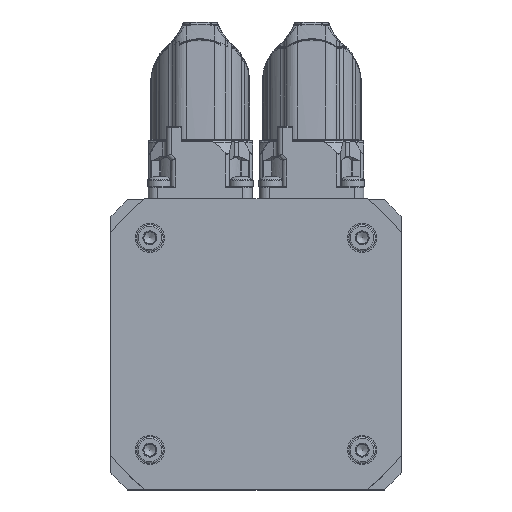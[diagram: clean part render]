
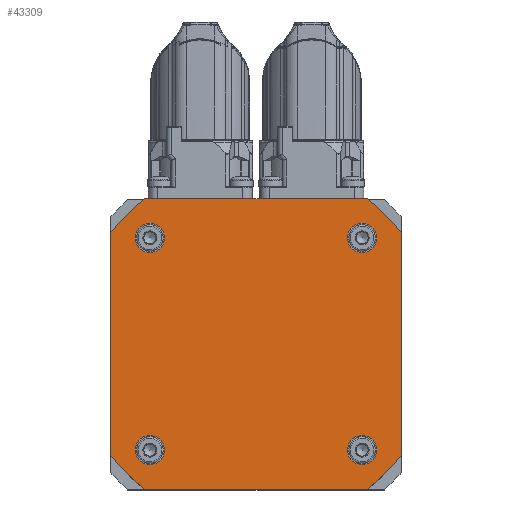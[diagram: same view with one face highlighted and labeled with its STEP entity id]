
A CAD part, top view. The second image highlights one B-rep face of the part: STEP entity #43309.
In plain terms, the highlighted planar face has unit normal (0, 0, 1).
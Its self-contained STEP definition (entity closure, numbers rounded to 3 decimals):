
#5439=LINE('',#64363,#7476);
#5443=LINE('',#64375,#7480);
#5447=LINE('',#64387,#7484);
#5451=LINE('',#64397,#7488);
#7476=VECTOR('',#51625,45.993);
#7480=VECTOR('',#51637,45.993);
#7484=VECTOR('',#51649,45.993);
#7488=VECTOR('',#51661,45.993);
#9486=PLANE('',#46102);
#10215=FACE_BOUND('',#13399,.T.);
#10216=FACE_BOUND('',#13400,.T.);
#10217=FACE_BOUND('',#13401,.T.);
#10218=FACE_BOUND('',#13402,.T.);
#10219=FACE_BOUND('',#13403,.T.);
#13399=EDGE_LOOP('',(#29850));
#13400=EDGE_LOOP('',(#29851));
#13401=EDGE_LOOP('',(#29852));
#13402=EDGE_LOOP('',(#29853));
#13403=EDGE_LOOP('',(#29854,#29855,#29856,#29857,#29858,#29859,#29860,#29861));
#16438=CIRCLE('',#46071,3.);
#16440=CIRCLE('',#46075,3.);
#16442=CIRCLE('',#46079,3.);
#16444=CIRCLE('',#46083,3.);
#16447=CIRCLE('',#46088,37.8);
#16449=CIRCLE('',#46092,37.8);
#16451=CIRCLE('',#46096,37.8);
#16453=CIRCLE('',#46100,37.8);
#19082=VERTEX_POINT('',#64327);
#19084=VERTEX_POINT('',#64333);
#19086=VERTEX_POINT('',#64339);
#19088=VERTEX_POINT('',#64345);
#19092=VERTEX_POINT('',#64354);
#19093=VERTEX_POINT('',#64356);
#19095=VERTEX_POINT('',#64362);
#19097=VERTEX_POINT('',#64368);
#19099=VERTEX_POINT('',#64374);
#19101=VERTEX_POINT('',#64380);
#19103=VERTEX_POINT('',#64386);
#19105=VERTEX_POINT('',#64392);
#23258=EDGE_CURVE('',#19082,#19082,#16438,.T.);
#23260=EDGE_CURVE('',#19084,#19084,#16440,.T.);
#23262=EDGE_CURVE('',#19086,#19086,#16442,.T.);
#23264=EDGE_CURVE('',#19088,#19088,#16444,.T.);
#23268=EDGE_CURVE('',#19093,#19092,#16447,.T.);
#23271=EDGE_CURVE('',#19095,#19093,#5439,.T.);
#23274=EDGE_CURVE('',#19097,#19095,#16449,.T.);
#23277=EDGE_CURVE('',#19099,#19097,#5443,.T.);
#23280=EDGE_CURVE('',#19101,#19099,#16451,.T.);
#23283=EDGE_CURVE('',#19103,#19101,#5447,.T.);
#23286=EDGE_CURVE('',#19105,#19103,#16453,.T.);
#23289=EDGE_CURVE('',#19092,#19105,#5451,.T.);
#29850=ORIENTED_EDGE('',*,*,#23258,.T.);
#29851=ORIENTED_EDGE('',*,*,#23260,.T.);
#29852=ORIENTED_EDGE('',*,*,#23262,.T.);
#29853=ORIENTED_EDGE('',*,*,#23264,.T.);
#29854=ORIENTED_EDGE('',*,*,#23289,.T.);
#29855=ORIENTED_EDGE('',*,*,#23286,.T.);
#29856=ORIENTED_EDGE('',*,*,#23283,.T.);
#29857=ORIENTED_EDGE('',*,*,#23280,.T.);
#29858=ORIENTED_EDGE('',*,*,#23277,.T.);
#29859=ORIENTED_EDGE('',*,*,#23274,.T.);
#29860=ORIENTED_EDGE('',*,*,#23271,.T.);
#29861=ORIENTED_EDGE('',*,*,#23268,.T.);
#43309=ADVANCED_FACE('',(#10215,#10216,#10217,#10218,#10219),#9486,.T.);
#46071=AXIS2_PLACEMENT_3D('',#64328,#51584,#51585);
#46075=AXIS2_PLACEMENT_3D('',#64334,#51592,#51593);
#46079=AXIS2_PLACEMENT_3D('',#64340,#51600,#51601);
#46083=AXIS2_PLACEMENT_3D('',#64346,#51608,#51609);
#46088=AXIS2_PLACEMENT_3D('',#64357,#51619,#51620);
#46092=AXIS2_PLACEMENT_3D('',#64369,#51631,#51632);
#46096=AXIS2_PLACEMENT_3D('',#64381,#51643,#51644);
#46100=AXIS2_PLACEMENT_3D('',#64393,#51655,#51656);
#46102=AXIS2_PLACEMENT_3D('',#64398,#51662,#51663);
#51584=DIRECTION('center_axis',(0.,0.,-1.));
#51585=DIRECTION('ref_axis',(0.,-1.,0.));
#51592=DIRECTION('center_axis',(0.,0.,-1.));
#51593=DIRECTION('ref_axis',(-1.,0.,0.));
#51600=DIRECTION('center_axis',(0.,0.,-1.));
#51601=DIRECTION('ref_axis',(0.,1.,0.));
#51608=DIRECTION('center_axis',(0.,0.,-1.));
#51609=DIRECTION('ref_axis',(1.,0.,0.));
#51619=DIRECTION('center_axis',(0.,0.,1.));
#51620=DIRECTION('ref_axis',(0.794,0.608,0.));
#51625=DIRECTION('',(0.,1.,0.));
#51631=DIRECTION('center_axis',(0.,0.,1.));
#51632=DIRECTION('ref_axis',(0.608,-0.794,0.));
#51637=DIRECTION('',(1.,0.,0.));
#51643=DIRECTION('center_axis',(0.,0.,1.));
#51644=DIRECTION('ref_axis',(-0.794,-0.608,0.));
#51649=DIRECTION('',(0.,-1.,0.));
#51655=DIRECTION('center_axis',(0.,0.,1.));
#51656=DIRECTION('ref_axis',(-0.608,0.794,0.));
#51661=DIRECTION('',(-1.,0.,0.));
#51662=DIRECTION('center_axis',(0.,0.,1.));
#51663=DIRECTION('ref_axis',(1.,0.,0.));
#64327=CARTESIAN_POINT('',(21.92,-24.92,104.));
#64328=CARTESIAN_POINT('Origin',(21.92,-21.92,104.));
#64333=CARTESIAN_POINT('',(-24.92,-21.92,104.));
#64334=CARTESIAN_POINT('Origin',(-21.92,-21.92,104.));
#64339=CARTESIAN_POINT('',(-21.92,24.92,104.));
#64340=CARTESIAN_POINT('Origin',(-21.92,21.92,104.));
#64345=CARTESIAN_POINT('',(24.92,21.92,104.));
#64346=CARTESIAN_POINT('Origin',(21.92,21.92,104.));
#64354=CARTESIAN_POINT('',(22.997,30.,104.));
#64356=CARTESIAN_POINT('',(30.,22.997,104.));
#64357=CARTESIAN_POINT('Origin',(0.,0.,104.));
#64362=CARTESIAN_POINT('',(30.,-22.997,104.));
#64363=CARTESIAN_POINT('',(30.,-30.,104.));
#64368=CARTESIAN_POINT('',(22.997,-30.,104.));
#64369=CARTESIAN_POINT('Origin',(0.,0.,104.));
#64374=CARTESIAN_POINT('',(-22.997,-30.,104.));
#64375=CARTESIAN_POINT('',(-30.,-30.,104.));
#64380=CARTESIAN_POINT('',(-30.,-22.997,104.));
#64381=CARTESIAN_POINT('Origin',(0.,0.,104.));
#64386=CARTESIAN_POINT('',(-30.,22.997,104.));
#64387=CARTESIAN_POINT('',(-30.,30.,104.));
#64392=CARTESIAN_POINT('',(-22.997,30.,104.));
#64393=CARTESIAN_POINT('Origin',(0.,0.,104.));
#64397=CARTESIAN_POINT('',(30.,30.,104.));
#64398=CARTESIAN_POINT('Origin',(0.,0.,
104.));
